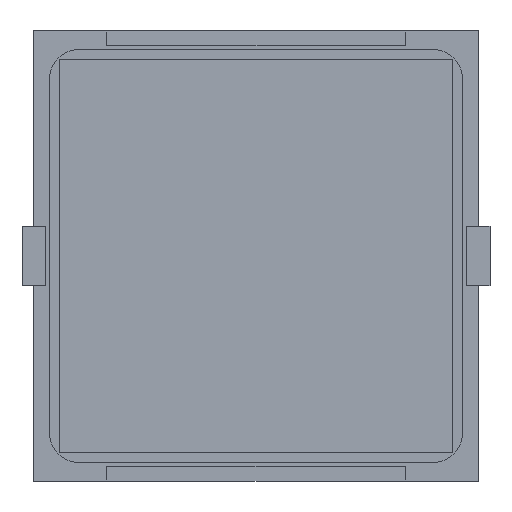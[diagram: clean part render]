
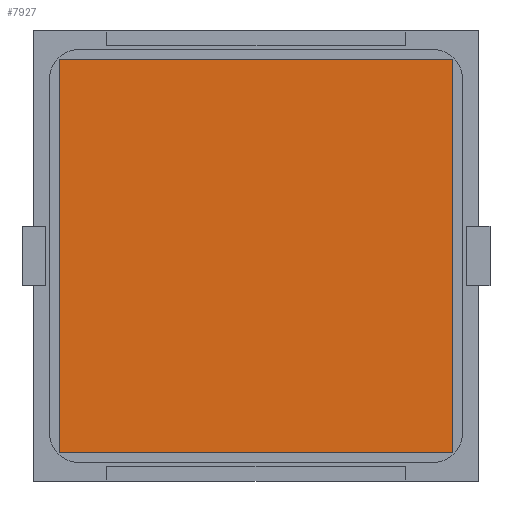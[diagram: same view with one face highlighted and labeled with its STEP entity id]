
A CAD part, front view. The second image highlights one B-rep face of the part: STEP entity #7927.
In plain terms, the highlighted planar face has unit normal (0, -1, 0).
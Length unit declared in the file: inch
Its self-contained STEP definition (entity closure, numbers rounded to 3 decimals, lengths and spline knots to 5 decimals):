
#135 = CARTESIAN_POINT ( 'NONE',  ( -0.64961, -0.005, -0.64961 ) ) ;
#321 = DIRECTION ( 'NONE',  ( 0., 0., 1. ) ) ;
#452 = LINE ( 'NONE', #9551, #813 ) ;
#813 = VECTOR ( 'NONE', #6256, 39.37008 ) ;
#836 = VECTOR ( 'NONE', #10659, 39.37008 ) ;
#1184 = VERTEX_POINT ( 'NONE', #10014 ) ;
#1299 = CARTESIAN_POINT ( 'NONE',  ( -0.64961, -0.005, -0.64961 ) ) ;
#1610 = VERTEX_POINT ( 'NONE', #2693 ) ;
#2013 = LINE ( 'NONE', #1299, #3514 ) ;
#2517 = ORIENTED_EDGE ( 'NONE', *, *, #8568, .F. ) ;
#2643 = DIRECTION ( 'NONE',  ( 0., 0., 1. ) ) ;
#2693 = CARTESIAN_POINT ( 'NONE',  ( 0.64961, -0.005, -0.64961 ) ) ;
#3293 = CARTESIAN_POINT ( 'NONE',  ( -0.64961, -0.005, 0.64961 ) ) ;
#3302 = PLANE ( 'NONE',  #4252 ) ;
#3514 = VECTOR ( 'NONE', #3747, 39.37008 ) ;
#3747 = DIRECTION ( 'NONE',  ( -1., 0., 0. ) ) ;
#3997 = EDGE_CURVE ( 'NONE', #8985, #5684, #5706, .T. ) ;
#4238 = LINE ( 'NONE', #135, #5332 ) ;
#4252 = AXIS2_PLACEMENT_3D ( 'NONE', #7852, #7748, #321 ) ;
#4798 = EDGE_LOOP ( 'NONE', ( #5945, #9431, #2517, #7113 ) ) ;
#5332 = VECTOR ( 'NONE', #2643, 39.37008 ) ;
#5684 = VERTEX_POINT ( 'NONE', #9890 ) ;
#5706 = LINE ( 'NONE', #6626, #836 ) ;
#5945 = ORIENTED_EDGE ( 'NONE', *, *, #10593, .F. ) ;
#6256 = DIRECTION ( 'NONE',  ( 0., 0., -1. ) ) ;
#6567 = EDGE_CURVE ( 'NONE', #1610, #1184, #2013, .T. ) ;
#6626 = CARTESIAN_POINT ( 'NONE',  ( -0.64961, -0.005, 0.64961 ) ) ;
#7113 = ORIENTED_EDGE ( 'NONE', *, *, #3997, .F. ) ;
#7748 = DIRECTION ( 'NONE',  ( 0., 1., 0. ) ) ;
#7852 = CARTESIAN_POINT ( 'NONE',  ( -0.64961, -0.005, 0.64961 ) ) ;
#7927 = ADVANCED_FACE ( 'NONE', ( #10019 ), #3302, .F. ) ;
#8568 = EDGE_CURVE ( 'NONE', #5684, #1610, #452, .T. ) ;
#8985 = VERTEX_POINT ( 'NONE', #3293 ) ;
#9431 = ORIENTED_EDGE ( 'NONE', *, *, #6567, .F. ) ;
#9551 = CARTESIAN_POINT ( 'NONE',  ( 0.64961, -0.005, -0.64961 ) ) ;
#9890 = CARTESIAN_POINT ( 'NONE',  ( 0.64961, -0.005, 0.64961 ) ) ;
#10014 = CARTESIAN_POINT ( 'NONE',  ( -0.64961, -0.005, -0.64961 ) ) ;
#10019 = FACE_OUTER_BOUND ( 'NONE', #4798, .T. ) ;
#10593 = EDGE_CURVE ( 'NONE', #1184, #8985, #4238, .T. ) ;
#10659 = DIRECTION ( 'NONE',  ( 1., 0., 0. ) ) ;
